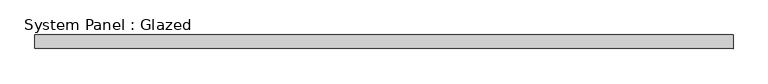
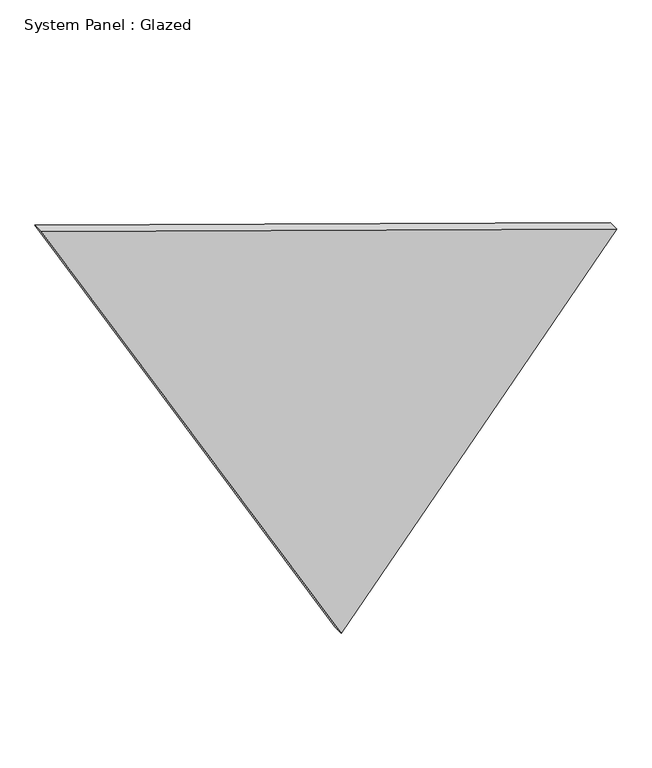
"""IFC4 building model written with IfcOpenShell, lengths in millimetres: plate geometry, System Panel : Glazed."""

from ifc_helpers import new_model, si_unit, frame, origin, place, context, project, spatial, polyline, outline, extrude, source, transform, mapped, element, save


def system_panel_glazed_13aa26b2(model_context):
    return source(origin(), model_context, "Body", "SweptSolid", [
        extrude(outline(polyline([(0.0, 26.9374645), (739.5504441, 642.6972183), (1183.6671335, -642.6972183), (0.0, 26.9374645)])), frame((0.0, -49.5, 0.0), z_axis=(0.0, 1.0, 0.0), x_axis=(0.0, 0.0, 1.0)), (0.0, 0.0, 1.0), 25.0),
    ])


if __name__ == "__main__":
    model = new_model("IFC4")
    model_context = context("Model", 3, world=origin())
    ifc_project = project(units=[si_unit("LENGTHUNIT", "METRE", prefix="MILLI")], contexts=[model_context])
    site = spatial("IfcSite", under=ifc_project)
    building = spatial("IfcBuilding", under=site)
    placement = place(None, origin())
    system_panel_glazed_shape = system_panel_glazed_13aa26b2(model_context)
    element("IfcPlate", 1, ObjectType="System Panel : Glazed", at=placement, inside=building, context=model_context, shape_type="MappedRepresentation", body=[
        mapped(system_panel_glazed_shape, transform((0.0, 0.0, 0.0), x_axis=(1.0, 0.0, 0.0), y_axis=(0.0, 1.0, 0.0), z_axis=(0.0, 0.0, 1.0))),
    ])
    save(model, "model.ifc")
